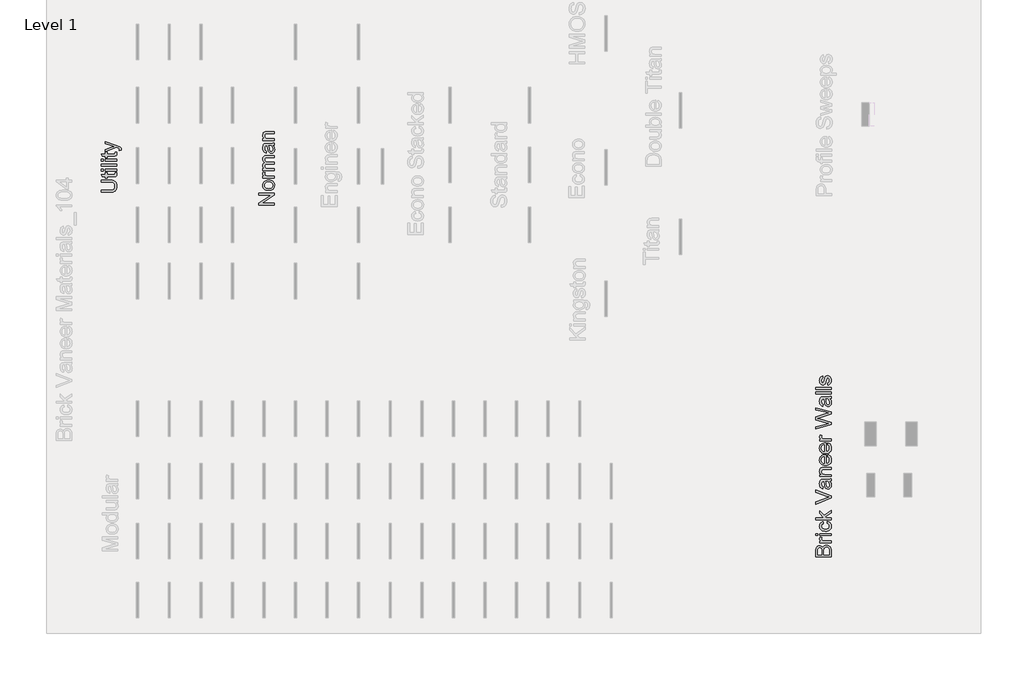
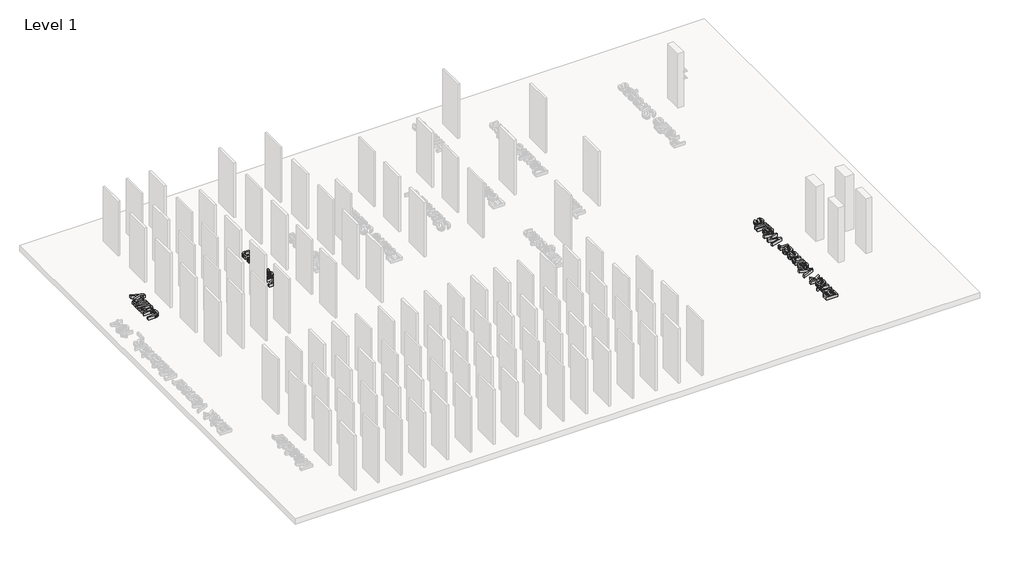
# One storey, part 3 of 6: 3 proxies.
"""IFC4 building model written with IfcOpenShell, lengths in millimetres."""

from ifc_helpers import new_model, si_unit, origin, origin_with_axes, place, context, project, spatial, polyline, outline, extrude, element, save

model = new_model("IFC4")

# Units and contexts
model_context = context("Model", 3, world=origin())
ifc_project = project(units=[si_unit("LENGTHUNIT", "METRE", prefix="MILLI")], contexts=[model_context])

# Site, building, storey
site = spatial("IfcSite", under=ifc_project)
building = spatial("IfcBuilding", under=site)
storey = spatial("IfcBuildingStorey", under=building, Name="Level 1", Elevation=0.0)

# Proxies
placement = place(None, origin())
element("IfcBuildingElementProxy", 1, Name="24\" Arial", ObjectType="24\" Arial", at=placement, inside=storey, context=model_context, shape_type="SweptSolid", body=[
    extrude(outline(polyline([(-5837.1296699, 4026.070537), (-6437.3512084, 4026.070537), (-6437.3512084, 4106.3736139), (-5961.8339007, 4419.9659216), (-6437.3512084, 4419.9659216), (-6437.3512084, 4494.9936139), (-5837.1296699, 4494.9936139), (-5837.1296699, 4414.690537), (-6312.7935161, 4101.0982293), (-5837.1296699, 4101.0982293), (-5837.1296699, 4026.070537)])), origin_with_axes(), (0.0, 0.0, 1.0), 152.4),
    extrude(outline(polyline([(-6057.5235161, 4598.1566908), (-6114.6094055, 4602.2139745), (-6163.8005353, 4614.3858254), (-6205.0969055, 4634.6722437), (-6238.4985161, 4663.0732293), (-6259.8473382, 4691.6665466), (-6275.0964968, 4723.2272677), (-6284.245992, 4757.7553927), (-6287.2958238, 4795.2509216), (-6283.5819896, 4836.6434576), (-6272.4404872, 4874.0702966), (-6253.8713165, 4907.5314384), (-6227.8744776, 4937.0268831), (-6195.3292012, 4961.1004048), (-6157.114718, 4978.2957774), (-6113.2310281, 4988.6130009), (-6063.6781315, 4992.0520754), (-6023.5174343, 4990.5317389), (-5987.8811122, 4985.9707293), (-5956.7691651, 4978.3690466), (-5930.181593, 4967.7266908), (-5907.2162685, 4954.1764624), (-5886.9710641, 4937.851162), (-5869.44598, 4918.7507894), (-5854.6410161, 4896.8753447), (-5842.8767252, 4873.0765826), (-5834.4736603, 4848.2062581), (-5829.4318214, 4822.2643711), (-5827.7512084, 4795.2509216), (-5831.4513045, 4753.2539144), (-5842.551593, 4715.4790466), (-5861.0520738, 4681.9263182), (-5886.9527468, 4652.5957293), (-5919.8139968, 4628.7786499), (-5959.1962084, 4611.7664504), (-6005.0993815, 4601.5591307), (-6057.5235161, 4598.1566908)]), holes=[polyline([(-6057.6700545, 4673.1843831), (-6021.2781435, 4675.3549841), (-5989.7677949, 4681.866787), (-5963.1390089, 4692.7197918), (-5941.3917853, 4707.9139985), (-5924.4986483, 4726.396162), (-5912.4321218, 4747.113037), (-5905.192206, 4770.0646235), (-5902.7789007, 4795.2509216), (-5905.205944, 4820.3089985), (-5912.4870738, 4843.1689985), (-5924.6222901, 4863.8309216), (-5941.611593, 4882.2947677), (-5963.5740449, 4897.4889745), (-5990.6287084, 4908.3419793), (-6022.7755834, 4914.8537822), (-6060.0146699, 4917.0243831), (-6095.2525906, 4914.8400442), (-6125.9386603, 4908.2870274), (-6152.072879, 4897.3653326), (-6173.6552468, 4882.07496), (-6190.5483839, 4863.542424), (-6202.6149103, 4842.8942389), (-6209.8548262, 4820.1304048), (-6212.2681315, 4795.2509216), (-6209.8639848, 4770.0646235), (-6202.6515449, 4747.113037), (-6190.6308117, 4726.396162), (-6173.8017853, 4707.9139985), (-6152.1186723, 4692.7197918), (-6125.5356795, 4681.866787), (-6094.0528069, 4675.3549841), (-6057.6700545, 4673.1843831)])]), origin_with_axes(), (0.0, 0.0, 1.0), 152.4),
    extrude(outline(polyline([(-5837.1296699, 5076.4582293), (-6277.9173622, 5076.4582293), (-6277.9173622, 5142.10746), (-6212.7077468, 5142.10746), (-6250.5146699, 5166.3595754), (-6272.7885161, 5188.7066908), (-6283.6689968, 5211.1270754), (-6287.2958238, 5235.5989985), (-6281.5075545, 5272.9663062), (-6264.1427468, 5310.9197677), (-6196.881593, 5285.8616908), (-6208.4214968, 5259.4847677), (-6212.2681315, 5233.1078447), (-6208.5680353, 5210.7057774), (-6197.4677468, 5190.68496), (-6179.8098622, 5174.5107774), (-6156.4369776, 5163.6486139), (-6114.5269776, 5154.5265947), (-6068.8069776, 5151.4859216), (-5837.1296699, 5151.4859216), (-5837.1296699, 5076.4582293)])), origin_with_axes(), (0.0, 0.0, 1.0), 152.4),
    extrude(outline(polyline([(-5837.1296699, 5357.8120754), (-6277.9173622, 5357.8120754), (-6277.9173622, 5432.8397677), (-6205.3808238, 5432.8397677), (-6238.7000065, 5455.4066908), (-6264.8021699, 5484.4213062), (-6281.6724103, 5518.8944793), (-6287.2958238, 5557.8370754), (-6281.5625065, 5599.5639024), (-6274.3958598, 5617.3225322), (-6264.3625545, 5633.0113062), (-6236.8316411, 5657.9961139), (-6200.1054391, 5674.3351524), (-6238.2512324, 5701.6828927), (-6265.4982276, 5732.8772677), (-6281.8464247, 5767.9182774), (-6287.2958238, 5806.8059216), (-6285.0290569, 5836.8417269), (-6278.2287565, 5863.204912), (-6266.8949223, 5885.8954769), (-6251.0275545, 5904.9134216), (-6230.44348, 5919.9473519), (-6204.9595257, 5930.6858735), (-6174.5756915, 5937.1289865), (-6139.2919776, 5939.2766908), (-5837.1296699, 5939.2766908), (-5837.1296699, 5864.2489985), (-6107.0535161, 5864.2489985), (-6144.4757757, 5862.5088543), (-6169.6987084, 5857.2884216), (-6186.9719295, 5847.5069793), (-6200.5450545, 5832.0838062), (-6209.3373622, 5812.246162), (-6212.2681315, 5789.2213062), (-6210.3906074, 5767.9594913), (-6204.7580353, 5748.5752004), (-6195.3704151, 5731.0684336), (-6182.2277468, 5715.4391908), (-6164.945367, 5702.5850201), (-6143.1386122, 5693.4034697), (-6116.8074824, 5687.8945394), (-6085.9519776, 5686.0582293), (-5837.1296699, 5686.0582293), (-5837.1296699, 5611.030537), (-6115.4062084, 5611.030537), (-6157.829093, 5606.689335), (-6174.4795257, 5601.2628326), (-6188.0892853, 5593.6657293), (-6198.6675305, 5583.5957894), (-6206.2234199, 5570.7507774), (-6210.7569536, 5555.1306932), (-6212.2681315, 5536.735537), (-6208.2383238, 5507.8308254), (-6196.1489007, 5481.19746), (-6176.2929391, 5459.2166908), (-6148.9635161, 5444.2697677), (-6111.0466891, 5435.6972677), (-6059.4285161, 5432.8397677), (-5837.1296699, 5432.8397677), (-5837.1296699, 5357.8120754)])), origin_with_axes(), (0.0, 0.0, 1.0), 152.4),
    extrude(outline(polyline([(-5893.4004391, 6333.1720754), (-5862.6639968, 6297.3251043), (-5842.551593, 6260.4157293), (-5831.4513045, 6221.6013543), (-5827.7512084, 6180.0393831), (-5829.9767613, 6146.6331932), (-5836.6534199, 6117.3392389), (-5847.7811843, 6092.1575201), (-5863.3600545, 6071.088037), (-5882.4008959, 6054.4513423), (-5903.9145738, 6042.5679889), (-5927.9010882, 6035.4379769), (-5954.3604391, 6033.0613062), (-5985.4632276, 6036.6514985), (-6013.7085161, 6047.4220754), (-6037.8873622, 6064.0358735), (-6056.7908238, 6085.1557293), (-6071.0783238, 6109.9756812), (-6081.4092853, 6137.6897677), (-6092.6927468, 6202.6063062), (-6104.5623622, 6279.3191908), (-6118.4835161, 6332.73246), (-6135.1889007, 6333.1720754), (-6168.6729391, 6328.0065947), (-6181.0737565, 6321.5497437), (-6190.5804391, 6312.5101524), (-6200.0688045, 6296.8854889), (-6206.8462084, 6277.8538062), (-6212.2681315, 6229.5693831), (-6208.6596218, 6184.8751524), (-6197.834093, 6153.66246), (-6177.8132757, 6132.3777485), (-6146.6189007, 6117.46746), (-6155.9973622, 6042.4397677), (-6197.0281315, 6055.4633735), (-6229.266593, 6074.898037), (-6253.9216891, 6102.5571716), (-6272.2023622, 6140.2541908), (-6283.5224584, 6186.3588543), (-6287.2958238, 6239.2409216), (-6283.9620738, 6289.9615466), (-6273.9608238, 6330.168037), (-6258.9223141, 6360.4831812), (-6240.4767853, 6381.5297677), (-6217.6717372, 6395.4875562), (-6189.5546699, 6404.5363062), (-6123.9054391, 6408.1997677), (-6030.5604391, 6408.1997677), (-5900.2144776, 6412.0097677), (-5867.9943334, 6417.6514985), (-5837.1296699, 6426.9566908), (-5837.1296699, 6351.9289985), (-5863.2135161, 6339.9128447), (-5893.4004391, 6333.1720754)]), holes=[polyline([(-6043.4558238, 6333.1720754), (-6030.9634199, 6282.7628447), (-6020.4492853, 6212.1313062), (-6008.286593, 6147.5811139), (-5999.9705353, 6130.7841427), (-5988.5039007, 6118.3466908), (-5974.7659199, 6110.6534216), (-5959.6358238, 6108.0889985), (-5937.325343, 6113.6757774), (-5919.0446699, 6130.4361139), (-5906.845343, 6158.003662), (-5902.7789007, 6196.0120754), (-5907.2666411, 6236.3101524), (-5920.7298622, 6271.9189985), (-5940.5675065, 6300.7870754), (-5964.1785161, 6320.8628447), (-5988.5039007, 6329.7650562), (-6022.2077468, 6332.73246), (-6043.4558238, 6333.1720754)])]), origin_with_axes(), (0.0, 0.0, 1.0), 152.4),
    extrude(outline(polyline([(-5837.1296699, 6511.3628447), (-6277.9173622, 6511.3628447), (-6277.9173622, 6586.390537), (-6216.3712084, 6586.390537), (-6247.4007276, 6612.4560658), (-6269.5646699, 6643.7603447), (-6282.8630353, 6680.3033735), (-6287.2958238, 6722.0851524), (-6283.7239488, 6759.0677966), (-6273.0083238, 6792.9364985), (-6256.4861122, 6821.181787), (-6235.4944776, 6841.2941908), (-6210.0883718, 6854.940585), (-6180.3227468, 6863.7878447), (-6107.7862084, 6867.7443831), (-5837.1296699, 6867.7443831), (-5837.1296699, 6792.7166908), (-6097.6750545, 6792.7166908), (-6136.4711122, 6790.5552485), (-6164.0569776, 6784.0709216), (-6183.8213526, 6772.1097197), (-6199.1529391, 6753.5176524), (-6208.9893334, 6729.686835), (-6212.2681315, 6702.0093831), (-6210.427242, 6679.2272317), (-6204.9045738, 6658.066162), (-6195.7001266, 6638.526174), (-6182.8139007, 6620.6072677), (-6164.7805113, 6605.637448), (-6140.1345738, 6594.9447197), (-6108.8760882, 6588.5290826), (-6071.0050545, 6586.390537), (-5837.1296699, 6586.390537), (-5837.1296699, 6511.3628447)])), origin_with_axes(), (0.0, 0.0, 1.0), 152.4),
])
element("IfcBuildingElementProxy", 2, Name="24\" Arial", ObjectType="24\" Arial", at=placement, inside=storey, context=model_context, shape_type="SweptSolid", body=[
    extrude(outline(polyline([(-12525.7184956, 4916.7217435), (-12525.7184956, 4991.7494358), (-12179.448111, 4991.7494358), (-12098.3573898, 4986.6572242), (-12064.8046615, 4980.2919598), (-12035.9136879, 4971.3805896), (-12010.59001, 4959.1537867), (-11987.7391687, 4942.8422242), (-11967.3611639, 4922.4459021), (-11949.4559956, 4897.9648204), (-11934.8708394, 4869.3715031), (-11924.4528706, 4836.6384742), (-11918.2020894, 4799.7657338), (-11916.1184956, 4758.7532819), (-11917.9319091, 4718.7528612), (-11923.3721495, 4682.5715992), (-11932.4392168, 4650.2094959), (-11945.133111, 4621.6665512), (-11961.2660797, 4596.9381858), (-11980.6503706, 4576.0198204), (-12003.2859836, 4558.911455), (-12029.1729187, 4545.6130896), (-12059.1995653, 4535.6438949), (-12094.2543129, 4528.5230415), (-12134.3371615, 4524.2505295), (-12179.448111, 4522.8263588), (-12525.7184956, 4522.8263588), (-12525.7184956, 4597.8540512), (-12182.0858033, 4597.8540512), (-12114.6597937, 4601.5541473), (-12067.7125341, 4612.6544358), (-12050.4072576, 4621.3826329), (-12035.1993129, 4632.7668396), (-12022.0886999, 4646.807056), (-12011.0754187, 4663.5032819), (-11996.1284956, 4703.5815512), (-11991.1461879, 4751.7194358), (-11993.6098658, 4793.0707579), (-12001.0008995, 4828.0293396), (-12013.3192889, 4856.595181), (-12030.5650341, 4878.7682819), (-12054.8171495, 4895.3729213), (-12088.1546495, 4907.2333781), (-12130.5775341, 4914.3496521), (-12182.0858033, 4916.7217435), (-12525.7184956, 4916.7217435)])), origin_with_axes(), (0.0, 0.0, 1.0), 152.4),
    extrude(outline(polyline([(-11988.0688802, 5273.1032819), (-11923.2988802, 5282.4817435), (-11916.1184956, 5226.3575127), (-11919.2324379, 5190.3456858), (-11928.5742648, 5163.4925127), (-11942.9716687, 5144.5157819), (-11961.2523418, 5132.1332819), (-11992.6482072, 5125.3192435), (-12046.3911879, 5123.0478973), (-12291.2569572, 5123.0478973), (-12291.2569572, 5066.7771281), (-12366.2846495, 5066.7771281), (-12366.2846495, 5123.0478973), (-12473.4042648, 5123.0478973), (-12517.5123418, 5198.0755896), (-12366.2846495, 5198.0755896), (-12366.2846495, 5273.1032819), (-12291.2569572, 5273.1032819), (-12291.2569572, 5198.0755896), (-12048.5892648, 5198.0755896), (-12009.903111, 5202.0321281), (-11996.2017648, 5214.8542435), (-11992.4100822, 5225.6797723), (-11991.1461879, 5240.425205), (-11988.0688802, 5273.1032819)])), origin_with_axes(), (0.0, 0.0, 1.0), 152.4),
    extrude(outline(polyline([(-12450.6908033, 5348.1309742), (-12525.7184956, 5348.1309742), (-12525.7184956, 5423.1586665), (-12450.6908033, 5423.1586665), (-12450.6908033, 5348.1309742)])), origin_with_axes(), (0.0, 0.0, 1.0), 152.4),
    extrude(outline(polyline([(-11925.4969572, 5348.1309742), (-12366.2846495, 5348.1309742), (-12366.2846495, 5423.1586665), (-11925.4969572, 5423.1586665), (-11925.4969572, 5348.1309742)])), origin_with_axes(), (0.0, 0.0, 1.0), 152.4),
    extrude(outline(polyline([(-11925.4969572, 5535.700205), (-12525.7184956, 5535.700205), (-12525.7184956, 5610.7278973), (-11925.4969572, 5610.7278973), (-11925.4969572, 5535.700205)])), origin_with_axes(), (0.0, 0.0, 1.0), 152.4),
    extrude(outline(polyline([(-11925.4969572, 5723.2694358), (-12366.2846495, 5723.2694358), (-12366.2846495, 5798.2971281), (-11925.4969572, 5798.2971281), (-11925.4969572, 5723.2694358)])), origin_with_axes(), (0.0, 0.0, 1.0), 152.4),
    extrude(outline(polyline([(-12450.6908033, 5723.2694358), (-12525.7184956, 5723.2694358), (-12525.7184956, 5798.2971281), (-12450.6908033, 5798.2971281), (-12450.6908033, 5723.2694358)])), origin_with_axes(), (0.0, 0.0, 1.0), 152.4),
    extrude(outline(polyline([(-11988.0688802, 6070.2725127), (-11923.2988802, 6079.6509742), (-11916.1184956, 6023.5267435), (-11919.2324379, 5987.5149165), (-11928.5742648, 5960.6617435), (-11942.9716687, 5941.6850127), (-11961.2523418, 5929.3025127), (-11992.6482072, 5922.4884742), (-12046.3911879, 5920.2171281), (-12291.2569572, 5920.2171281), (-12291.2569572, 5863.9463588), (-12366.2846495, 5863.9463588), (-12366.2846495, 5920.2171281), (-12473.4042648, 5920.2171281), (-12517.5123418, 5995.2448204), (-12366.2846495, 5995.2448204), (-12366.2846495, 6070.2725127), (-12291.2569572, 6070.2725127), (-12291.2569572, 5995.2448204), (-12048.5892648, 5995.2448204), (-12009.903111, 5999.2013588), (-11996.2017648, 6012.0234742), (-11992.4100822, 6022.8490031), (-11991.1461879, 6037.5944358), (-11988.0688802, 6070.2725127)])), origin_with_axes(), (0.0, 0.0, 1.0), 152.4),
    extrude(outline(polyline([(-11756.6846495, 6145.300205), (-11828.928111, 6135.9217435), (-11822.3338802, 6174.0217435), (-11824.403736, 6194.0608781), (-11830.6133033, 6209.6305896), (-11840.5229668, 6221.7566473), (-11853.693111, 6231.4648204), (-11908.938111, 6251.980205), (-11927.1088802, 6257.8417435), (-12366.2846495, 6098.4078973), (-12366.2846495, 6177.5386665), (-12121.5654187, 6262.0913588), (-12023.6777264, 6291.5455896), (-12110.1354187, 6320.9998204), (-12366.2846495, 6407.8971281), (-12366.2846495, 6486.4417435), (-11914.9461879, 6333.0159742), (-11817.0584956, 6293.1575127), (-11785.8091687, 6272.7520319), (-11764.158111, 6249.6355896), (-11751.5191687, 6222.7824165), (-11747.3061879, 6191.1667435), (-11749.6508033, 6169.4424165), (-11756.6846495, 6145.300205)])), origin_with_axes(), (0.0, 0.0, 1.0), 152.4),
])
element("IfcBuildingElementProxy", 3, Name="24\" Arial", ObjectType="24\" Arial", at=placement, inside=storey, context=model_context, shape_type="SweptSolid", body=[
    extrude(outline(polyline([(15665.2727461, -9570.1451587), (15065.0512076, -9570.1451587), (15065.0512076, -9341.1055433), (15069.4656788, -9278.1123221), (15082.7090923, -9228.930351), (15092.7240802, -9208.9370096), (15105.1111596, -9191.2333318), (15119.8703302, -9175.8193173), (15137.0015923, -9162.6949664), (15174.5154384, -9144.7256875), (15213.7877461, -9138.7359279), (15249.9277942, -9143.7731875), (15283.9064, -9158.8849664), (15313.6353903, -9184.1811683), (15337.0265923, -9219.7716971), (15346.6798134, -9197.1269255), (15359.2271692, -9177.257226), (15374.6686596, -9160.1625986), (15393.0042846, -9145.8430433), (15413.6753663, -9134.5275265), (15436.1232269, -9126.4450144), (15460.3478663, -9121.5955072), (15486.3492846, -9119.9790048), (15528.2043326, -9124.393476), (15567.0187076, -9137.6368894), (15600.0264961, -9157.4012644), (15624.4617846, -9181.3786202), (15642.1563038, -9210.7412644), (15654.9417846, -9246.6615048), (15662.6900057, -9290.3116491), (15665.2727461, -9342.8640048), (15665.2727461, -9570.1451587)]), holes=[polyline([(15308.8912076, -9495.1174664), (15308.8912076, -9358.1040048), (15307.2792846, -9310.1859279), (15302.4435153, -9278.0940048), (15291.3249096, -9250.0868414), (15274.6744769, -9229.9561202), (15252.7486596, -9217.8117452), (15225.8039, -9213.7636202), (15199.6467846, -9217.5369856), (15176.8600538, -9228.8570818), (15159.073948, -9247.2110241), (15147.9187076, -9272.0859279), (15142.0388519, -9310.2591971), (15140.0789, -9368.5082356), (15140.0789, -9495.1174664), (15308.8912076, -9495.1174664)]), polyline([(15590.2450538, -9495.1174664), (15590.2450538, -9341.2520818), (15587.3142846, -9285.5674664), (15580.8116403, -9259.7217452), (15570.9752461, -9238.455351), (15556.8892365, -9221.1638125), (15537.6377461, -9207.2426587), (15514.0816884, -9198.0656875), (15487.0819769, -9195.0066971), (15455.7227461, -9198.5968894), (15428.7596692, -9209.3674664), (15407.676448, -9228.1793414), (15393.9567846, -9255.8934279), (15386.4283711, -9295.1474183), (15383.9189, -9348.5790048), (15383.9189, -9495.1174664), (15590.2450538, -9495.1174664)])]), origin_with_axes(), (0.0, 0.0, 1.0), 152.4),
    extrude(outline(polyline([(15665.2727461, -9026.1943894), (15224.4850538, -9026.1943894), (15224.4850538, -8960.5451587), (15289.6946692, -8960.5451587), (15251.8877461, -8936.2930433), (15229.6139, -8913.9459279), (15218.7334192, -8891.5255433), (15215.1065923, -8867.0536202), (15220.8948615, -8829.6863125), (15238.2596692, -8791.732851), (15305.520823, -8816.7909279), (15293.9809192, -8843.167851), (15290.1342846, -8869.5447741), (15293.8343807, -8891.9468414), (15304.9346692, -8911.9676587), (15322.5925538, -8928.1418414), (15345.9654384, -8939.0040048), (15387.8754384, -8948.1260241), (15433.5954384, -8951.1666971), (15665.2727461, -8951.1666971), (15665.2727461, -9026.1943894)])), origin_with_axes(), (0.0, 0.0, 1.0), 152.4),
    extrude(outline(polyline([(15140.0789, -8744.8405433), (15065.0512076, -8744.8405433), (15065.0512076, -8669.812851), (15140.0789, -8669.812851), (15140.0789, -8744.8405433)])), origin_with_axes(), (0.0, 0.0, 1.0), 152.4),
    extrude(outline(polyline([(15665.2727461, -8744.8405433), (15224.4850538, -8744.8405433), (15224.4850538, -8669.812851), (15665.2727461, -8669.812851), (15665.2727461, -8744.8405433)])), origin_with_axes(), (0.0, 0.0, 1.0), 152.4),
    extrude(outline(polyline([(15505.8389, -8275.9174664), (15515.2173615, -8200.8897741), (15550.6201379, -8209.0501346), (15581.9473134, -8221.8081394), (15609.1988879, -8239.1637885), (15632.3748615, -8261.1170818), (15650.8707629, -8286.7429952), (15664.0821211, -8315.1165048), (15672.008936, -8346.2376106), (15674.6512076, -8380.1063125), (15670.9648495, -8422.1857476), (15659.905775, -8459.9148221), (15641.4739841, -8493.2935361), (15615.6694769, -8522.3218894), (15582.977662, -8545.8184159), (15543.883948, -8562.6016491), (15498.3883351, -8572.671589), (15446.490823, -8576.0282356), (15379.7242365, -8570.2949183), (15349.6792726, -8563.1282717), (15321.8598615, -8553.0949664), (15296.8246812, -8540.1263125), (15275.1324096, -8524.1536202), (15256.7830466, -8505.1768894), (15241.7765923, -8483.1961202), (15230.1084673, -8459.2050265), (15221.7740923, -8434.1973221), (15216.7734673, -8408.1730072), (15215.1065923, -8381.1320818), (15217.3962557, -8347.8449544), (15224.2652461, -8317.7358798), (15235.7135634, -8290.8048582), (15251.7412076, -8267.0518894), (15271.9818326, -8246.8799544), (15296.0690923, -8230.6920337), (15324.0029865, -8218.4881274), (15355.7835153, -8210.2682356), (15365.1619769, -8285.2959279), (15332.428948, -8298.9056875), (15308.9644769, -8320.0988125), (15294.8418326, -8347.7029952), (15290.1342846, -8380.5459279), (15292.451424, -8406.0390409), (15299.4028423, -8429.0318414), (15310.9885394, -8449.5243294), (15327.2085153, -8467.5165048), (15348.438275, -8482.1657717), (15375.053323, -8492.6295337), (15407.0536596, -8498.9077909), (15444.4392846, -8501.0005433), (15482.3881668, -8498.9535842), (15514.7594288, -8492.8127068), (15541.5530706, -8482.5779111), (15562.7690923, -8468.2491971), (15578.8929024, -8450.6142092), (15590.4099096, -8430.4605914), (15597.3201139, -8407.7883438), (15599.6235153, -8382.5974664), (15593.8718807, -8343.7464568), (15586.6823375, -8326.9449063), (15576.6169769, -8311.8926587), (15563.5658951, -8299.011012), (15547.4191884, -8288.7212644), (15528.1768567, -8281.0234159), (15505.8389, -8275.9174664)])), origin_with_axes(), (0.0, 0.0, 1.0), 152.4),
    extrude(outline(polyline([(15665.2727461, -8135.2405433), (15065.0512076, -8135.2405433), (15065.0512076, -8060.212851), (15387.5823615, -8060.212851), (15224.4850538, -7891.9866971), (15224.4850538, -7788.2374664), (15389.6339, -7958.5151587), (15665.2727461, -7778.8590048), (15665.2727461, -7866.4890048), (15441.8015923, -8012.2947741), (15488.2542846, -8060.212851), (15665.2727461, -8060.212851), (15665.2727461, -8135.2405433)])), origin_with_axes(), (0.0, 0.0, 1.0), 152.4),
    extrude(outline(polyline([(15665.2727461, -7292.0582356), (15065.0512076, -7530.9159279), (15065.0512076, -7450.612851), (15497.4862076, -7290.7393894), (15594.9342846, -7258.3543894), (15497.4862076, -7226.4090048), (15065.0512076, -7066.0959279), (15065.0512076, -6985.792851), (15665.2727461, -7214.5393894), (15665.2727461, -7292.0582356)])), origin_with_axes(), (0.0, 0.0, 1.0), 152.4),
    extrude(outline(polyline([(15609.0019769, -6644.0651587), (15639.7384192, -6679.9121298), (15659.850823, -6716.8215048), (15670.9511115, -6755.6358798), (15674.6512076, -6797.197851), (15672.4256548, -6830.6040409), (15665.7489961, -6859.8979952), (15654.6212317, -6885.079714), (15639.0423615, -6906.1491971), (15620.0015201, -6922.7858919), (15598.4878423, -6934.6692452), (15574.5013278, -6941.7992572), (15548.0419769, -6944.1759279), (15516.9391884, -6940.5857356), (15488.6939, -6929.8151587), (15464.5150538, -6913.2013606), (15445.6115923, -6892.0815048), (15431.3240923, -6867.2615529), (15420.9931307, -6839.5474664), (15409.7096692, -6774.6309279), (15397.8400538, -6697.9180433), (15383.9189, -6644.5047741), (15367.2135153, -6644.0651587), (15333.7294769, -6649.2306394), (15321.3286596, -6655.6874904), (15311.8219769, -6664.7270818), (15302.3336115, -6680.3517452), (15295.5562076, -6699.3834279), (15290.1342846, -6747.667851), (15293.7427942, -6792.3620818), (15304.568323, -6823.5747741), (15324.5891403, -6844.8594856), (15355.7835153, -6859.7697741), (15346.4050538, -6934.7974664), (15305.3742846, -6921.7738606), (15273.135823, -6902.3391971), (15248.4807269, -6874.6800625), (15230.2000538, -6836.9830433), (15218.8799576, -6790.8783798), (15215.1065923, -6737.9963125), (15218.4403423, -6687.2756875), (15228.4415923, -6647.0691971), (15243.4801019, -6616.7540529), (15261.9256307, -6595.7074664), (15284.7306788, -6581.7496779), (15312.8477461, -6572.7009279), (15378.4969769, -6569.0374664), (15471.8419769, -6569.0374664), (15602.1879384, -6565.2274664), (15634.4080826, -6559.5857356), (15665.2727461, -6550.2805433), (15665.2727461, -6625.3082356), (15639.1889, -6637.3243894), (15609.0019769, -6644.0651587)]), holes=[polyline([(15458.9465923, -6644.0651587), (15471.4389961, -6694.4743894), (15481.9531307, -6765.1059279), (15494.115823, -6829.6561202), (15502.4318807, -6846.4530914), (15513.8985153, -6858.8905433), (15527.6364961, -6866.5838125), (15542.7665923, -6869.1482356), (15565.077073, -6863.5614568), (15583.3577461, -6846.8011202), (15595.557073, -6819.2335721), (15599.6235153, -6781.2251587), (15595.135775, -6740.9270818), (15581.6725538, -6705.3182356), (15561.8349096, -6676.4501587), (15538.2239, -6656.3743894), (15513.8985153, -6647.4721779), (15480.1946692, -6644.5047741), (15458.9465923, -6644.0651587)])]), origin_with_axes(), (0.0, 0.0, 1.0), 152.4),
    extrude(outline(polyline([(15665.2727461, -6465.8743894), (15224.4850538, -6465.8743894), (15224.4850538, -6390.8466971), (15286.0312076, -6390.8466971), (15255.0016884, -6364.7811683), (15232.8377461, -6333.4768894), (15219.5393807, -6296.9338606), (15215.1065923, -6255.1520818), (15218.6784673, -6218.1694375), (15229.3940923, -6184.3007356), (15245.9163038, -6156.0554471), (15266.9079384, -6135.9430433), (15292.3140442, -6122.2966491), (15322.0796692, -6113.4493894), (15394.6162076, -6109.492851), (15665.2727461, -6109.492851), (15665.2727461, -6184.5205433), (15404.7273615, -6184.5205433), (15365.9313038, -6186.6819856), (15338.3454384, -6193.1663125), (15318.5810634, -6205.1275144), (15303.2494769, -6223.7195818), (15293.4130826, -6247.5503991), (15290.1342846, -6275.227851), (15291.975174, -6298.0100024), (15297.4978423, -6319.1710721), (15306.7022894, -6338.7110601), (15319.5885153, -6356.6299664), (15337.6219048, -6371.5997861), (15362.2678423, -6382.2925144), (15393.5263278, -6388.7081515), (15431.3973615, -6390.8466971), (15665.2727461, -6390.8466971), (15665.2727461, -6465.8743894)])), origin_with_axes(), (0.0, 0.0, 1.0), 152.4),
    extrude(outline(polyline([(15533.9742846, -5697.7197741), (15543.3527461, -5624.1574664), (15572.8161355, -5635.4363486), (15598.7809192, -5650.6626106), (15621.2470971, -5669.8362524), (15640.2146692, -5692.9572741), (15655.2806548, -5719.7875505), (15666.042073, -5750.0889568), (15672.498924, -5783.8614928), (15674.6512076, -5821.1051587), (15670.9373735, -5867.6585962), (15659.7958711, -5909.1381394), (15641.2267004, -5945.5437885), (15615.2298615, -5976.8755433), (15582.5288879, -6002.071), (15543.8473134, -6020.0677548), (15499.1851379, -6030.8658077), (15448.5423615, -6034.4651587), (15396.1823375, -6030.8291731), (15350.0318807, -6019.9212164), (15310.0909913, -6001.7412885), (15276.3596692, -5976.2893894), (15249.561448, -5945.0400625), (15230.4198615, -5909.467851), (15218.9349096, -5869.5727548), (15215.1065923, -5825.3547741), (15218.9257509, -5782.560964), (15230.3832269, -5743.8610721), (15249.4790201, -5709.2550986), (15276.2131307, -5678.7430433), (15309.8711836, -5653.8360842), (15349.7388038, -5636.0453991), (15395.8159913, -5625.370988), (15448.1027461, -5621.812851), (15468.3250538, -5622.2524664), (15468.3250538, -5959.4374664), (15498.2646932, -5955.0916851), (15524.4859192, -5946.4504952), (15546.9887317, -5933.5138967), (15565.7731307, -5916.2818894), (15580.582674, -5895.7069736), (15591.1609192, -5872.7416491), (15597.5078663, -5847.3859159), (15599.6235153, -5819.6397741), (15595.7036115, -5779.7080433), (15583.9439, -5746.0774664), (15563.6116884, -5718.7480433), (15533.9742846, -5697.7197741)]), holes=[polyline([(15393.2973615, -5959.4374664), (15393.2973615, -5696.8405433), (15353.6587076, -5706.9883318), (15338.0706788, -5715.7165289), (15325.3035153, -5726.8809279), (15309.9169769, -5747.3413606), (15298.9265923, -5770.6226587), (15292.3323615, -5796.7248221), (15290.1342846, -5825.647851), (15291.8881668, -5852.0293534), (15297.1498134, -5876.2219375), (15305.9192245, -5898.2256034), (15318.1964, -5918.040351), (15333.4135033, -5934.667887), (15351.002698, -5947.1099183), (15370.9639841, -5955.3664447), (15393.2973615, -5959.4374664)])]), origin_with_axes(), (0.0, 0.0, 1.0), 152.4),
    extrude(outline(polyline([(15533.9742846, -5238.1751587), (15543.3527461, -5164.612851), (15572.8161355, -5175.8917332), (15598.7809192, -5191.1179952), (15621.2470971, -5210.291637), (15640.2146692, -5233.4126587), (15655.2806548, -5260.2429351), (15666.042073, -5290.5443414), (15672.498924, -5324.3168774), (15674.6512076, -5361.5605433), (15670.9373735, -5408.1139808), (15659.7958711, -5449.5935241), (15641.2267004, -5485.9991731), (15615.2298615, -5517.3309279), (15582.5288879, -5542.5263846), (15543.8473134, -5560.5231394), (15499.1851379, -5571.3211923), (15448.5423615, -5574.9205433), (15396.1823375, -5571.2845577), (15350.0318807, -5560.376601), (15310.0909913, -5542.1966731), (15276.3596692, -5516.7447741), (15249.561448, -5485.4954471), (15230.4198615, -5449.9232356), (15218.9349096, -5410.0281394), (15215.1065923, -5365.8101587), (15218.9257509, -5323.0163486), (15230.3832269, -5284.3164568), (15249.4790201, -5249.7104832), (15276.2131307, -5219.1984279), (15309.8711836, -5194.2914688), (15349.7388038, -5176.5007837), (15395.8159913, -5165.8263726), (15448.1027461, -5162.2682356), (15468.3250538, -5162.707851), (15468.3250538, -5499.892851), (15498.2646932, -5495.5470697), (15524.4859192, -5486.9058798), (15546.9887317, -5473.9692813), (15565.7731307, -5456.7372741), (15580.582674, -5436.1623582), (15591.1609192, -5413.1970337), (15597.5078663, -5387.8413005), (15599.6235153, -5360.0951587), (15595.7036115, -5320.1634279), (15583.9439, -5286.532851), (15563.6116884, -5259.2034279), (15533.9742846, -5238.1751587)]), holes=[polyline([(15393.2973615, -5499.892851), (15393.2973615, -5237.2959279), (15353.6587076, -5247.4437164), (15338.0706788, -5256.1719135), (15325.3035153, -5267.3363125), (15309.9169769, -5287.7967452), (15298.9265923, -5311.0780433), (15292.3323615, -5337.1802068), (15290.1342846, -5366.1032356), (15291.8881668, -5392.484738), (15297.1498134, -5416.6773221), (15305.9192245, -5438.680988), (15318.1964, -5458.4957356), (15333.4135033, -5475.1232717), (15351.002698, -5487.5653029), (15370.9639841, -5495.8218294), (15393.2973615, -5499.892851)])]), origin_with_axes(), (0.0, 0.0, 1.0), 152.4),
    extrude(outline(polyline([(15665.2727461, -5087.2405433), (15224.4850538, -5087.2405433), (15224.4850538, -5021.5913125), (15289.6946692, -5021.5913125), (15251.8877461, -4997.3391971), (15229.6139, -4974.9920818), (15218.7334192, -4952.5716971), (15215.1065923, -4928.0997741), (15220.8948615, -4890.7324664), (15238.2596692, -4852.7790048), (15305.520823, -4877.8370818), (15293.9809192, -4904.2140048), (15290.1342846, -4930.5909279), (15293.8343807, -4952.9929952), (15304.9346692, -4973.0138125), (15322.5925538, -4989.1879952), (15345.9654384, -5000.0501587), (15387.8754384, -5009.1721779), (15433.5954384, -5012.212851), (15665.2727461, -5012.212851), (15665.2727461, -5087.2405433)])), origin_with_axes(), (0.0, 0.0, 1.0), 152.4),
    extrude(outline(polyline([(15665.2727461, -4454.6340048), (15065.0512076, -4618.3174664), (15065.0512076, -4540.9451587), (15459.5327461, -4445.9882356), (15581.3062076, -4416.6805433), (15473.6004384, -4385.3213125), (15065.0512076, -4266.3320818), (15065.0512076, -4154.8163125), (15361.2054384, -4068.3586202), (15471.1092846, -4031.3210241), (15581.3062076, -4004.0282356), (15463.0496692, -3975.5997741), (15065.0512076, -3879.7636202), (15065.0512076, -3802.3913125), (15665.2727461, -3966.2213125), (15665.2727461, -4046.377851), (15202.2112076, -4190.2786202), (15137.5877461, -4210.3543894), (15215.3996692, -4232.9213125), (15665.2727461, -4364.0732356), (15665.2727461, -4454.6340048)])), origin_with_axes(), (0.0, 0.0, 1.0), 152.4),
    extrude(outline(polyline([(15609.0019769, -3455.3882356), (15639.7384192, -3491.2352068), (15659.850823, -3528.1445818), (15670.9511115, -3566.9589568), (15674.6512076, -3608.5209279), (15672.4256548, -3641.9271178), (15665.7489961, -3671.2210721), (15654.6212317, -3696.4027909), (15639.0423615, -3717.4722741), (15620.0015201, -3734.1089688), (15598.4878423, -3745.9923221), (15574.5013278, -3753.1223342), (15548.0419769, -3755.4990048), (15516.9391884, -3751.9088125), (15488.6939, -3741.1382356), (15464.5150538, -3724.5244375), (15445.6115923, -3703.4045818), (15431.3240923, -3678.5846298), (15420.9931307, -3650.8705433), (15409.7096692, -3585.9540048), (15397.8400538, -3509.2411202), (15383.9189, -3455.827851), (15367.2135153, -3455.3882356), (15333.7294769, -3460.5537164), (15321.3286596, -3467.0105673), (15311.8219769, -3476.0501587), (15302.3336115, -3491.6748221), (15295.5562076, -3510.7065048), (15290.1342846, -3558.9909279), (15293.7427942, -3603.6851587), (15304.568323, -3634.897851), (15324.5891403, -3656.1825625), (15355.7835153, -3671.092851), (15346.4050538, -3746.1205433), (15305.3742846, -3733.0969375), (15273.135823, -3713.6622741), (15248.4807269, -3686.0031394), (15230.2000538, -3648.3061202), (15218.8799576, -3602.2014568), (15215.1065923, -3549.3193894), (15218.4403423, -3498.5987644), (15228.4415923, -3458.3922741), (15243.4801019, -3428.0771298), (15261.9256307, -3407.0305433), (15284.7306788, -3393.0727548), (15312.8477461, -3384.0240048), (15378.4969769, -3380.3605433), (15471.8419769, -3380.3605433), (15602.1879384, -3376.5505433), (15634.4080826, -3370.9088125), (15665.2727461, -3361.6036202), (15665.2727461, -3436.6313125), (15639.1889, -3448.6474664), (15609.0019769, -3455.3882356)]), holes=[polyline([(15458.9465923, -3455.3882356), (15471.4389961, -3505.7974664), (15481.9531307, -3576.4290048), (15494.115823, -3640.9791971), (15502.4318807, -3657.7761683), (15513.8985153, -3670.2136202), (15527.6364961, -3677.9068894), (15542.7665923, -3680.4713125), (15565.077073, -3674.8845337), (15583.3577461, -3658.1241971), (15595.557073, -3630.5566491), (15599.6235153, -3592.5482356), (15595.135775, -3552.2501587), (15581.6725538, -3516.6413125), (15561.8349096, -3487.7732356), (15538.2239, -3467.6974664), (15513.8985153, -3458.7952548), (15480.1946692, -3455.827851), (15458.9465923, -3455.3882356)])]), origin_with_axes(), (0.0, 0.0, 1.0), 152.4),
    extrude(outline(polyline([(15665.2727461, -3277.1974664), (15065.0512076, -3277.1974664), (15065.0512076, -3202.1697741), (15665.2727461, -3202.1697741), (15665.2727461, -3277.1974664)])), origin_with_axes(), (0.0, 0.0, 1.0), 152.4),
    extrude(outline(polyline([(15665.2727461, -3089.6282356), (15065.0512076, -3089.6282356), (15065.0512076, -3014.6005433), (15665.2727461, -3014.6005433), (15665.2727461, -3089.6282356)])), origin_with_axes(), (0.0, 0.0, 1.0), 152.4),
    extrude(outline(polyline([(15533.9742846, -2930.1943894), (15524.595823, -2855.1666971), (15541.7041884, -2850.6331635), (15556.6877461, -2843.3337164), (15569.5464961, -2833.2683558), (15580.2804384, -2820.4370818), (15588.7430346, -2804.8032596), (15594.7877461, -2786.3302548), (15599.6235153, -2740.8666971), (15595.1907269, -2695.9526587), (15589.6497413, -2678.4962644), (15581.8923615, -2664.3736202), (15562.6225538, -2645.6899664), (15551.8336596, -2641.0190529), (15540.2754384, -2639.4620818), (15530.1459673, -2641.0282116), (15521.1521692, -2645.726601), (15506.5715923, -2664.5201587), (15497.0465923, -2692.6189087), (15485.1769769, -2741.7459279), (15465.3759673, -2810.2160241), (15448.4690923, -2854.7270818), (15430.0235634, -2883.3203991), (15405.6065923, -2904.0372741), (15376.77515, -2916.6212644), (15345.0862076, -2920.8159279), (15316.0166403, -2917.4455433), (15289.1817846, -2907.3343894), (15265.6440442, -2891.3983318), (15246.465823, -2870.5532356), (15234.3947173, -2849.8363606), (15224.2652461, -2822.8549664), (15217.3962557, -2791.6605914), (15215.1065923, -2758.3047741), (15218.7883711, -2709.4708318), (15229.8337076, -2667.0113125), (15247.1618807, -2632.867851), (15269.6921692, -2608.9820818), (15299.091448, -2593.1559279), (15337.0265923, -2583.1913125), (15346.4050538, -2658.2190048), (15322.7940442, -2667.6890529), (15305.0079384, -2686.4276587), (15293.852698, -2714.6179952), (15290.1342846, -2752.4432356), (15293.6878423, -2795.5255433), (15304.3485153, -2824.2470818), (15319.7350538, -2840.4029471), (15337.4662076, -2845.7882356), (15349.0061115, -2843.5535241), (15359.3004384, -2836.8493894), (15368.4957269, -2825.3827548), (15375.8592846, -2808.8605433), (15391.8319769, -2744.2370818), (15427.1477461, -2634.1134279), (15444.0363038, -2605.0255433), (15467.1527461, -2582.9715048), (15496.5703423, -2569.0686683), (15532.3623615, -2564.4343894), (15569.363323, -2569.8746298), (15604.1662076, -2586.195351), (15634.0417365, -2612.7737644), (15656.2606307, -2648.9870818), (15670.0535634, -2692.7288125), (15674.6512076, -2741.8924664), (15672.4348134, -2782.2729712), (15665.7856307, -2817.5429471), (15654.7036596, -2847.7023943), (15639.1889, -2872.7513125), (15619.3146211, -2893.2117452), (15595.1540923, -2909.6057356), (15566.7073134, -2921.9332837), (15533.9742846, -2930.1943894)])), origin_with_axes(), (0.0, 0.0, 1.0), 152.4),
])

save(model, "model.ifc")
